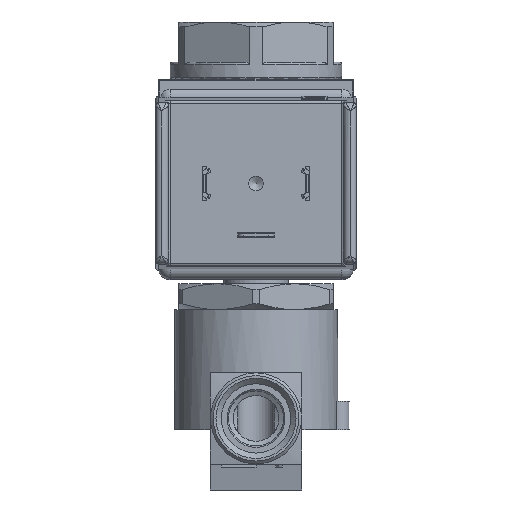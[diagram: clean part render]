
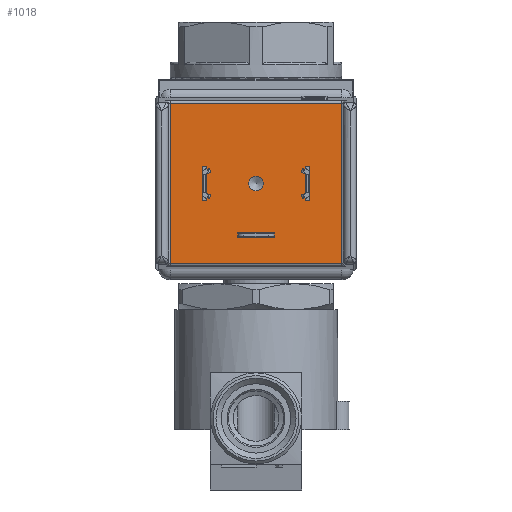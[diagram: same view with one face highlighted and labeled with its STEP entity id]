
A CAD part, front view. The second image highlights one B-rep face of the part: STEP entity #1018.
In plain terms, the highlighted planar face has unit normal (0, -1, 0).
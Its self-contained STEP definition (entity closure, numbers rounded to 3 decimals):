
#1018=ADVANCED_FACE('',(#1811,#1812,#1813,#1814,#2137),#1524,.T.);
#1524=PLANE('',#10332);
#1811=FACE_BOUND('',#2884,.T.);
#1812=FACE_BOUND('',#2885,.T.);
#1813=FACE_BOUND('',#2886,.T.);
#1814=FACE_BOUND('',#2887,.T.);
#2137=FACE_OUTER_BOUND('',#2888,.T.);
#2884=EDGE_LOOP('',(#5009,#5010,#5011,#5012));
#2885=EDGE_LOOP('',(#5013,#5014,#5015,#5016));
#2886=EDGE_LOOP('',(#5017,#5018,#5019,#5020));
#2887=EDGE_LOOP('',(#5021));
#2888=EDGE_LOOP('',(#5022,#5023,#5024,#5025));
#3538=CIRCLE('',#10331,1.297);
#5009=ORIENTED_EDGE('',*,*,#7716,.T.);
#5010=ORIENTED_EDGE('',*,*,#7729,.F.);
#5011=ORIENTED_EDGE('',*,*,#7727,.T.);
#5012=ORIENTED_EDGE('',*,*,#7723,.T.);
#5013=ORIENTED_EDGE('',*,*,#7798,.T.);
#5014=ORIENTED_EDGE('',*,*,#7791,.T.);
#5015=ORIENTED_EDGE('',*,*,#7799,.F.);
#5016=ORIENTED_EDGE('',*,*,#7778,.F.);
#5017=ORIENTED_EDGE('',*,*,#7886,.F.);
#5018=ORIENTED_EDGE('',*,*,#7869,.T.);
#5019=ORIENTED_EDGE('',*,*,#7887,.T.);
#5020=ORIENTED_EDGE('',*,*,#7881,.F.);
#5021=ORIENTED_EDGE('',*,*,#7950,.T.);
#5022=ORIENTED_EDGE('',*,*,#7951,.T.);
#5023=ORIENTED_EDGE('',*,*,#7952,.T.);
#5024=ORIENTED_EDGE('',*,*,#7953,.T.);
#5025=ORIENTED_EDGE('',*,*,#7954,.T.);
#6764=VERTEX_POINT('',#15236);
#6766=VERTEX_POINT('',#15240);
#6771=VERTEX_POINT('',#15253);
#6775=VERTEX_POINT('',#15262);
#6806=VERTEX_POINT('',#15365);
#6807=VERTEX_POINT('',#15367);
#6815=VERTEX_POINT('',#15389);
#6816=VERTEX_POINT('',#15391);
#6862=VERTEX_POINT('',#15546);
#6863=VERTEX_POINT('',#15548);
#6869=VERTEX_POINT('',#15567);
#6870=VERTEX_POINT('',#15569);
#6922=VERTEX_POINT('',#15743);
#6923=VERTEX_POINT('',#15745);
#6924=VERTEX_POINT('',#15746);
#6925=VERTEX_POINT('',#15748);
#6926=VERTEX_POINT('',#15750);
#7716=EDGE_CURVE('',#6764,#6766,#8792,.T.);
#7723=EDGE_CURVE('',#6771,#6764,#8799,.T.);
#7727=EDGE_CURVE('',#6775,#6771,#8802,.T.);
#7729=EDGE_CURVE('',#6775,#6766,#8804,.T.);
#7778=EDGE_CURVE('',#6806,#6807,#8840,.T.);
#7791=EDGE_CURVE('',#6816,#6815,#8852,.T.);
#7798=EDGE_CURVE('',#6806,#6816,#8859,.T.);
#7799=EDGE_CURVE('',#6807,#6815,#8860,.T.);
#7869=EDGE_CURVE('',#6863,#6862,#8913,.T.);
#7881=EDGE_CURVE('',#6869,#6870,#8924,.T.);
#7886=EDGE_CURVE('',#6863,#6869,#8929,.T.);
#7887=EDGE_CURVE('',#6862,#6870,#8930,.T.);
#7950=EDGE_CURVE('',#6922,#6922,#3538,.T.);
#7951=EDGE_CURVE('',#6923,#6924,#8966,.T.);
#7952=EDGE_CURVE('',#6924,#6925,#8967,.T.);
#7953=EDGE_CURVE('',#6925,#6926,#8968,.T.);
#7954=EDGE_CURVE('',#6926,#6923,#8969,.T.);
#8792=LINE('',#15241,#9372);
#8799=LINE('',#15256,#9379);
#8802=LINE('',#15264,#9382);
#8804=LINE('',#15267,#9384);
#8840=LINE('',#15366,#9420);
#8852=LINE('',#15390,#9432);
#8859=LINE('',#15405,#9439);
#8860=LINE('',#15407,#9440);
#8913=LINE('',#15547,#9493);
#8924=LINE('',#15568,#9504);
#8929=LINE('',#15581,#9509);
#8930=LINE('',#15583,#9510);
#8966=LINE('',#15744,#9546);
#8967=LINE('',#15747,#9547);
#8968=LINE('',#15749,#9548);
#8969=LINE('',#15751,#9549);
#9372=VECTOR('',#11942,1.);
#9379=VECTOR('',#11953,1.);
#9382=VECTOR('',#11960,1.);
#9384=VECTOR('',#11964,1.);
#9420=VECTOR('',#12064,1.);
#9432=VECTOR('',#12082,1.);
#9439=VECTOR('',#12101,1.);
#9440=VECTOR('',#12104,1.);
#9493=VECTOR('',#12241,1.);
#9504=VECTOR('',#12258,1.);
#9509=VECTOR('',#12275,1.);
#9510=VECTOR('',#12278,1.);
#9546=VECTOR('',#12398,1.);
#9547=VECTOR('',#12399,1.);
#9548=VECTOR('',#12400,1.);
#9549=VECTOR('',#12401,1.);
#10331=AXIS2_PLACEMENT_3D('',#15742,#12396,#12397);
#10332=AXIS2_PLACEMENT_3D('',#15752,#12402,#12403);
#11942=DIRECTION('',(1.,0.,0.));
#11953=DIRECTION('',(0.,0.,1.));
#11960=DIRECTION('',(-1.,0.,0.));
#11964=DIRECTION('',(0.,0.,1.));
#12064=DIRECTION('',(0.,0.,1.));
#12082=DIRECTION('',(0.,0.,1.));
#12101=DIRECTION('',(-1.,0.,0.));
#12104=DIRECTION('',(-1.,0.,0.));
#12241=DIRECTION('',(0.,0.,1.));
#12258=DIRECTION('',(0.,0.,1.));
#12275=DIRECTION('',(1.,0.,0.));
#12278=DIRECTION('',(1.,0.,0.));
#12396=DIRECTION('',(0.,1.,0.));
#12397=DIRECTION('',(0.,0.,1.));
#12398=DIRECTION('',(0.,0.,-1.));
#12399=DIRECTION('',(1.,0.,0.));
#12400=DIRECTION('',(0.,0.,1.));
#12401=DIRECTION('',(-1.,0.,0.));
#12402=DIRECTION('',(0.,-1.,0.));
#12403=DIRECTION('',(0.,0.,-1.));
#15236=CARTESIAN_POINT('',(-3.15,-23.5,32.4));
#15240=CARTESIAN_POINT('',(3.15,-23.5,32.4));
#15241=CARTESIAN_POINT('',(0.,-23.5,32.4));
#15253=CARTESIAN_POINT('',(-3.15,-23.5,31.6));
#15256=CARTESIAN_POINT('',(-3.15,-23.5,31.6));
#15262=CARTESIAN_POINT('',(3.15,-23.5,31.6));
#15264=CARTESIAN_POINT('',(0.,-23.5,31.6));
#15267=CARTESIAN_POINT('',(3.15,-23.5,31.6));
#15365=CARTESIAN_POINT('',(9.4,-23.5,38.));
#15366=CARTESIAN_POINT('',(9.4,-23.5,38.));
#15367=CARTESIAN_POINT('',(9.4,-23.5,44.));
#15389=CARTESIAN_POINT('',(8.6,-23.5,44.));
#15390=CARTESIAN_POINT('',(8.6,-23.5,38.));
#15391=CARTESIAN_POINT('',(8.6,-23.5,38.));
#15405=CARTESIAN_POINT('',(9.4,-23.5,38.));
#15407=CARTESIAN_POINT('',(9.4,-23.5,44.));
#15546=CARTESIAN_POINT('',(-9.4,-23.5,44.));
#15547=CARTESIAN_POINT('',(-9.4,-23.5,38.));
#15548=CARTESIAN_POINT('',(-9.4,-23.5,38.));
#15567=CARTESIAN_POINT('',(-8.6,-23.5,38.));
#15568=CARTESIAN_POINT('',(-8.6,-23.5,38.));
#15569=CARTESIAN_POINT('',(-8.6,-23.5,44.));
#15581=CARTESIAN_POINT('',(-9.4,-23.5,38.));
#15583=CARTESIAN_POINT('',(-9.4,-23.5,44.));
#15742=CARTESIAN_POINT('',(0.,-23.5,41.));
#15743=CARTESIAN_POINT('',(0.,-23.5,42.297));
#15744=CARTESIAN_POINT('',(-14.95,-23.5,27.05));
#15745=CARTESIAN_POINT('',(-14.95,-23.5,55.038));
#15746=CARTESIAN_POINT('',(-14.95,-23.5,27.062));
#15747=CARTESIAN_POINT('',(0.,-23.5,27.062));
#15748=CARTESIAN_POINT('',(14.95,-23.5,27.062));
#15749=CARTESIAN_POINT('',(14.95,-23.5,27.05));
#15750=CARTESIAN_POINT('',(14.95,-23.5,55.038));
#15751=CARTESIAN_POINT('',(0.,-23.5,55.038));
#15752=CARTESIAN_POINT('',(0.,-23.5,27.05));
